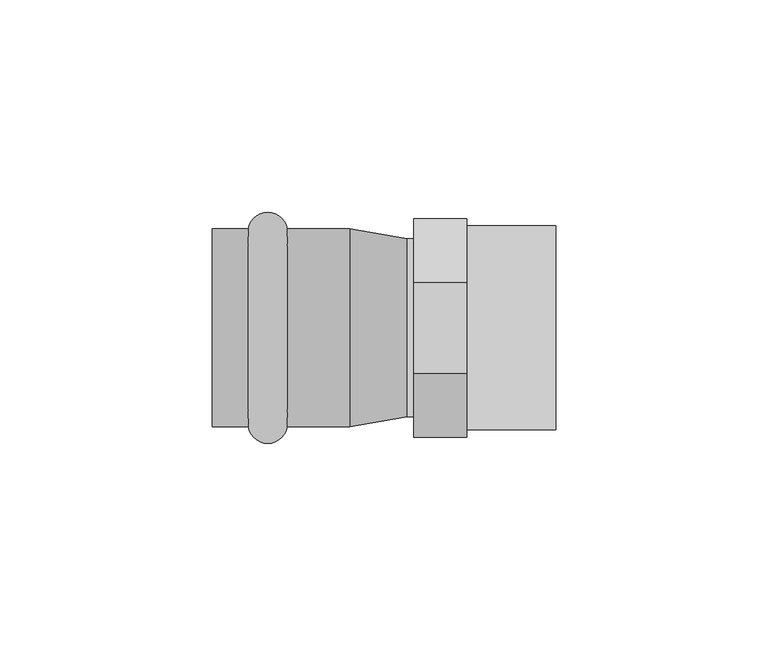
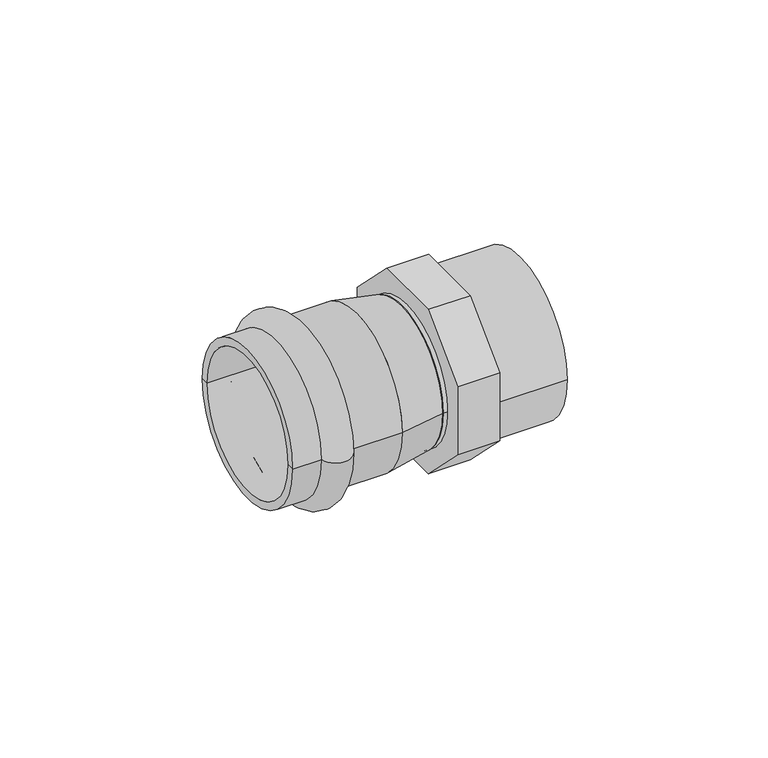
"""IFC4 building model written with IfcOpenShell, lengths in millimetres: pipe fitting geometry, VALTEC_VTi.901.I_Соединитель прямой с переходом на наружную резьбу_Нержавеющая сталь : VTi.901.I."""

from ifc_helpers import new_model, si_unit, point, frame, origin, origin_2d, place, context, project, spatial, polyline, circle_curve, ellipse_curve, trimmed, segment, composite_curve, outline, extrude, source, transform, mapped, element, save
from ifc_brep_helpers import plane_surface, cylinder_surface, revolved_surface, advanced_brep


def pipe_fitting_30c0bb78(model_context):
    return source(origin(), model_context, "Body", "SolidModel", [
        advanced_brep(
        [(-45.1964272, -23.35, 0.0), (-45.1964272, 23.35, 0.0), (-36.1035728, 23.35, 0.0), (-36.1035728, -23.35, 0.0), (-53.75, -23.35, 0.0), (-53.75, 23.35, 0.0), (-53.75, -21.0, 0.0), (-53.75, 21.0, 0.0), (-21.35, -21.0, 0.0), (-21.35, 21.0, 0.0), (-21.35, -23.35, 0.0), (-21.35, 23.35, 0.0)],
        [
            (0, 1, circle_curve(frame((-45.1964272, 0.0, 0.0), z_axis=(1.0, 0.0, 0.0), x_axis=(0.0, 1.0, 0.0)), 23.35)),
            (1, 2, circle_curve(frame((-40.65, 22.65, 0.0), z_axis=(0.0, 0.0, -1.0), x_axis=(1.0, 0.0, 0.0)), 4.6)),
            (2, 3, circle_curve(frame((-36.1035728, 0.0, 0.0), z_axis=(-1.0, 0.0, 0.0), x_axis=(0.0, 1.0, 0.0)), 23.35)),
            (3, 0, circle_curve(frame((-40.65, -22.65, 0.0), z_axis=(0.0, 0.0, -1.0), x_axis=(1.0, 0.0, 0.0)), 4.6)),
            (1, 0, circle_curve(frame((-45.1964272, 0.0, 0.0), z_axis=(1.0, 0.0, 0.0), x_axis=(0.0, 1.0, 0.0)), 23.35)),
            (3, 2, circle_curve(frame((-36.1035728, 0.0, 0.0), z_axis=(-1.0, 0.0, 0.0), x_axis=(0.0, 1.0, 0.0)), 23.35)),
            (4, 5, circle_curve(frame((-53.75, 0.0, 0.0), z_axis=(1.0, 0.0, 0.0), x_axis=(0.0, 1.0, 0.0)), 23.35)),
            (5, 1),
            (0, 4),
            (5, 4, circle_curve(frame((-53.75, 0.0, 0.0), z_axis=(1.0, 0.0, 0.0), x_axis=(0.0, 1.0, 0.0)), 23.35)),
            (6, 7, circle_curve(frame((-53.75, 0.0, 0.0), z_axis=(1.0, 0.0, 0.0), x_axis=(0.0, 1.0, 0.0)), 21.0)),
            (7, 5),
            (4, 6),
            (7, 6, circle_curve(frame((-53.75, 0.0, 0.0), z_axis=(1.0, 0.0, 0.0), x_axis=(0.0, 1.0, 0.0)), 21.0)),
            (8, 9, circle_curve(frame((-21.35, 0.0, 0.0), z_axis=(1.0, 0.0, 0.0), x_axis=(0.0, 1.0, 0.0)), 21.0)),
            (9, 7),
            (6, 8),
            (9, 8, circle_curve(frame((-21.35, 0.0, 0.0), z_axis=(1.0, 0.0, 0.0), x_axis=(0.0, 1.0, 0.0)), 21.0)),
            (10, 11, circle_curve(frame((-21.35, 0.0, 0.0), z_axis=(1.0, 0.0, 0.0), x_axis=(0.0, 1.0, 0.0)), 23.35)),
            (11, 9),
            (8, 10),
            (11, 10, circle_curve(frame((-21.35, 0.0, 0.0), z_axis=(1.0, 0.0, 0.0), x_axis=(0.0, 1.0, 0.0)), 23.35)),
            (2, 11),
            (10, 3),
        ],
        [
            revolved_surface(trimmed(ellipse_curve(frame((-40.65, 22.65, 0.0), z_axis=(0.0, 0.0, 1.0), x_axis=(1.0, 0.0, 0.0)), 4.6, 4.6), [point((-36.1035728, 23.35, 0.0))], [point((-45.1964272, 23.35, 0.0))], True, "CARTESIAN"), (-57.2864426, 0.0, 0.0), (-1.0, 0.0, 0.0)),
            cylinder_surface(frame((-57.2864426, 0.0, 0.0), z_axis=(-1.0, 0.0, 0.0), x_axis=(0.0, 1.0, 0.0)), 23.35),
            plane_surface(frame((-53.75, 0.0, 0.0), z_axis=(-1.0, 0.0, 0.0), x_axis=(0.0, 1.0, 0.0))),
            revolved_surface(polyline([(-53.75, 21.0, 0.0), (-21.35, 21.0, 0.0)]), (-57.2864426, 0.0, 0.0), (-1.0, 0.0, 0.0)),
            plane_surface(frame((-21.35, 0.0, 0.0), z_axis=(1.0, 0.0, 0.0), x_axis=(0.0, 1.0, 0.0))),
        ],
        [
            (0, [[1, 2, 3, 4]]),
            (0, [[5, -4, 6, -2]]),
            (1, [[7, 8, -1, 9]]),
            (1, [[10, -9, -5, -8]]),
            (2, [[11, 12, -7, 13]]),
            (2, [[14, -13, -10, -12]]),
            (3, [[15, 16, -11, 17]]),
            (3, [[18, -17, -14, -16]]),
            (4, [[19, 20, -15, 21]]),
            (4, [[22, -21, -18, -20]]),
            (1, [[-3, 23, -19, 24]]),
            (1, [[-6, -24, -22, -23]]),
        ],
    ),
        extrude(outline(polyline([(10.6659992, 25.75), (25.75, 10.6659992), (25.75, -10.6659992), (10.6659992, -25.75), (-10.6659992, -25.75), (-25.75, -10.6659992), (-25.75, 10.6659992), (-10.6659992, 25.75), (10.6659992, 25.75)])), frame((-6.25, 0.0, 0.0), z_axis=(1.0, 0.0, 0.0), x_axis=(0.0, 1.0, 0.0)), (0.0, 0.0, 1.0), 12.5),
        extrude(outline(polyline([(10.6659992, 25.75), (25.75, 10.6659992), (25.75, -10.6659992), (10.6659992, -25.75), (-10.6659992, -25.75), (-25.75, -10.6659992), (-25.75, 10.6659992), (-10.6659992, 25.75), (10.6659992, 25.75)]), holes=[composite_curve([segment(trimmed(circle_curve(origin_2d(), 20.0), [point((-20.0, 0.0))], [point((20.0, 0.0))], True, "CARTESIAN"), True, "CONTINUOUS"), segment(trimmed(circle_curve(origin_2d(), 20.0), [point((20.0, 0.0))], [point((-20.0, 0.0))], True, "CARTESIAN"), True, "CONTINUOUS")], self_intersect=False)]), frame((-6.25, 0.0, 0.0), z_axis=(1.0, 0.0, 0.0), x_axis=(0.0, 1.0, 0.0)), (0.0, 0.0, 1.0), 12.5),
        extrude(outline(composite_curve([segment(trimmed(circle_curve(origin_2d(), 21.0), [point((-21.0, 0.0))], [point((21.0, 0.0))], False, "CARTESIAN"), True, "CONTINUOUS"), segment(trimmed(circle_curve(origin_2d(), 21.0), [point((21.0, 0.0))], [point((-21.0, 0.0))], False, "CARTESIAN"), True, "CONTINUOUS")], self_intersect=False)), frame((-7.8183127, 0.0, 0.0), z_axis=(1.0, 0.0, 0.0), x_axis=(0.0, 1.0, 0.0)), (0.0, 0.0, 1.0), 1.5683127),
        advanced_brep(
        [(-21.35, -23.35, 0.0), (-21.35, 23.35, 0.0), (-7.8183127, -21.0, 0.0), (-7.8183127, 21.0, 0.0)],
        [
            (0, 1, circle_curve(frame((-21.35, 0.0, 0.0), z_axis=(-1.0, 0.0, 0.0), x_axis=(0.0, -1.0, 0.0)), 23.35)),
            (1, 0, circle_curve(frame((-21.35, 0.0, 0.0), z_axis=(-1.0, 0.0, 0.0), x_axis=(0.0, 1.0, 0.0)), 23.35)),
            (2, 3, circle_curve(frame((-7.8183127, 0.0, 0.0), z_axis=(1.0, 0.0, 0.0), x_axis=(0.0, 1.0, 0.0)), 21.0)),
            (3, 2, circle_curve(frame((-7.8183127, 0.0, 0.0), z_axis=(1.0, 0.0, 0.0), x_axis=(0.0, -1.0, 0.0)), 21.0)),
            (2, 0),
            (1, 3),
        ],
        [
            plane_surface(frame((-21.35, 0.0, 0.0), z_axis=(-1.0, 0.0, 0.0), x_axis=(0.0, 0.0, -1.0))),
            plane_surface(frame((-7.8183127, 0.0, 0.0), z_axis=(1.0, 0.0, 0.0), x_axis=(0.0, 0.0, -1.0))),
            revolved_surface(polyline([(-7.818312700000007, -21.00000000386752, 0.0), (-21.349999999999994, -23.35, 0.0)]), (113.1031485, 0.0, 0.0), (-1.0, 0.0, 0.0)),
            revolved_surface(polyline([(-7.818312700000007, 21.00000000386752, 0.0), (-21.349999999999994, 23.35, 0.0)]), (113.1031485, 0.0, 0.0), (-1.0, 0.0, 0.0)),
        ],
        [
            (0, [[1, 2]]),
            (1, [[3, 4]]),
            (2, [[-3, 5, -2, 6]]),
            (3, [[-4, -6, -1, -5]]),
        ],
    ),
        extrude(outline(composite_curve([segment(trimmed(circle_curve(origin_2d(), 24.0), [point((-24.0, 0.0))], [point((24.0, 0.0))], False, "CARTESIAN"), True, "CONTINUOUS"), segment(trimmed(circle_curve(origin_2d(), 24.0), [point((24.0, 0.0))], [point((-24.0, 0.0))], False, "CARTESIAN"), True, "CONTINUOUS")], self_intersect=False), holes=[composite_curve([segment(trimmed(circle_curve(origin_2d(), 20.0), [point((-20.0, 0.0))], [point((20.0, 0.0))], True, "CARTESIAN"), True, "CONTINUOUS"), segment(trimmed(circle_curve(origin_2d(), 20.0), [point((20.0, 0.0))], [point((-20.0, 0.0))], True, "CARTESIAN"), True, "CONTINUOUS")], self_intersect=False)]), frame((6.25, 0.0, 0.0), z_axis=(1.0, 0.0, 0.0), x_axis=(0.0, 1.0, 0.0)), (0.0, 0.0, 1.0), 21.0),
    ])


if __name__ == "__main__":
    model = new_model("IFC4")
    model_context = context("Model", 3, world=origin())
    ifc_project = project(units=[si_unit("LENGTHUNIT", "METRE", prefix="MILLI")], contexts=[model_context])
    site = spatial("IfcSite", under=ifc_project)
    building = spatial("IfcBuilding", under=site)
    placement = place(None, origin())
    pipe_fitting_shape = pipe_fitting_30c0bb78(model_context)
    element("IfcPipeFitting", 1, ObjectType="VALTEC_VTi.901.I_Соединитель прямой с переходом на наружную резьбу_Нержавеющая сталь : VTi.901.I", at=placement, inside=building, context=model_context, shape_type="MappedRepresentation", body=[
        mapped(pipe_fitting_shape, transform((0.0, 0.0, 0.0), x_axis=(1.0, 0.0, 0.0), y_axis=(0.0, 1.0, 0.0), z_axis=(0.0, 0.0, 1.0))),
    ])
    save(model, "model.ifc")
